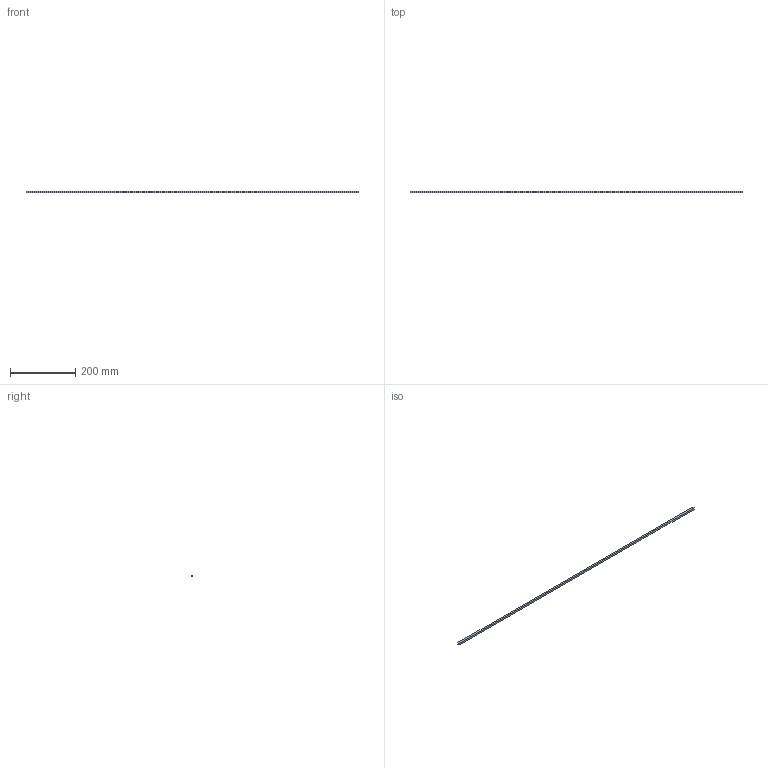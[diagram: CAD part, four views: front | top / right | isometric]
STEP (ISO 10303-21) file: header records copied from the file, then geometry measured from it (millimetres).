
FILE_DESCRIPTION (( 'STEP AP214' ), '1' );
FILE_NAME ('Sensotronic-Antriebswelle_KAB-1200.step', '2010-10-15T08:37:54', ( 'grass' ), ( '' ), 'SwSTEP 2.0', 'SolidWorks 2010', '' );
FILE_SCHEMA (( 'AUTOMOTIVE_DESIGN' ));
Length unit declared in the file: millimetre
Products named in the file (1): Sensotronic-Antriebswelle_KAB-1200
Bounding box: 1014.5 x 6 x 6 mm (x, y, z)
Volume: 36522 mm3; surface area: 24420 mm2
Topology: 1 solids, 1 shells, 6 faces, 12 edges, 8 vertices
Faces by surface type: plane 6
Entity records: 190 total; most frequent: CARTESIAN_POINT 27, DIRECTION 26, ORIENTED_EDGE 24, LINE 12, VECTOR 12, EDGE_CURVE 12, VERTEX_POINT 8, AXIS2_PLACEMENT_3D 7
